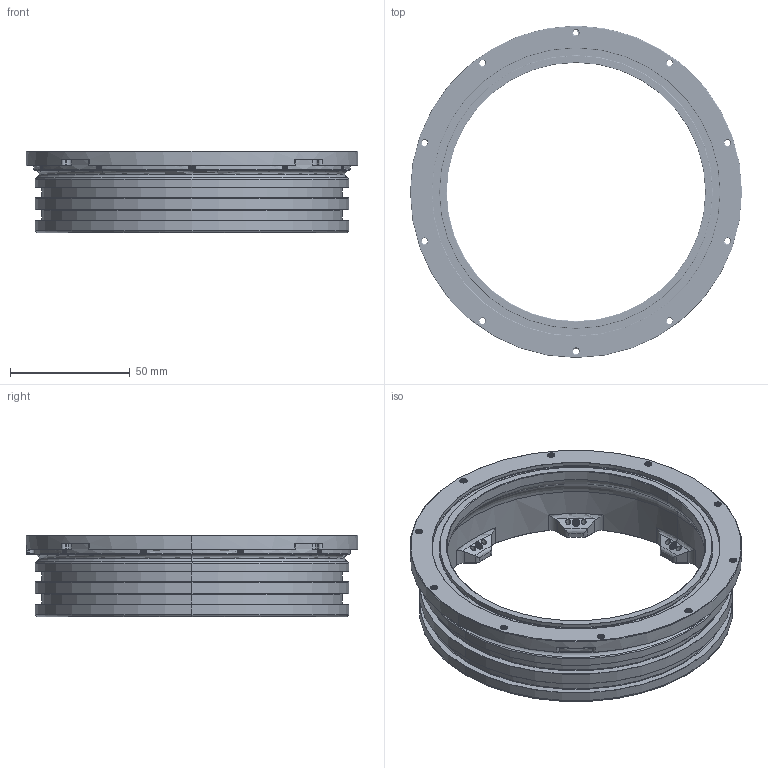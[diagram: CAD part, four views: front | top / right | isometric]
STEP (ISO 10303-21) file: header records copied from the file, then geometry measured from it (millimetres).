
FILE_DESCRIPTION (( 'STEP AP214' ), '1' );
FILE_NAME ('BR-101421_Rev_0.step', '2024-12-10T19:51:47', ( '' ), ( '' ), 'SwSTEP 2.0', 'SolidWorks 2024', '' );
FILE_SCHEMA (( 'AUTOMOTIVE_DESIGN' ));
Products named in the file (1): BR-101421_Rev_0
Bounding box: 138.7 x 138.7 x 34 mm (x, y, z)
Volume: 90664.3 mm3; surface area: 45584.9 mm2
Topology: 1 solids, 1 shells, 1256 faces, 3587 edges, 2328 vertices
Faces by surface type: cylinder 691, bspline 244, cone 201, plane 78, torus 42
Entity records: 208696 total; most frequent: CARTESIAN_POINT 181758, ORIENTED_EDGE 7174, DIRECTION 4117, EDGE_CURVE 3587, VERTEX_POINT 2328, AXIS2_PLACEMENT_3D 1564, EDGE_LOOP 1321, FACE_OUTER_BOUND 1256
